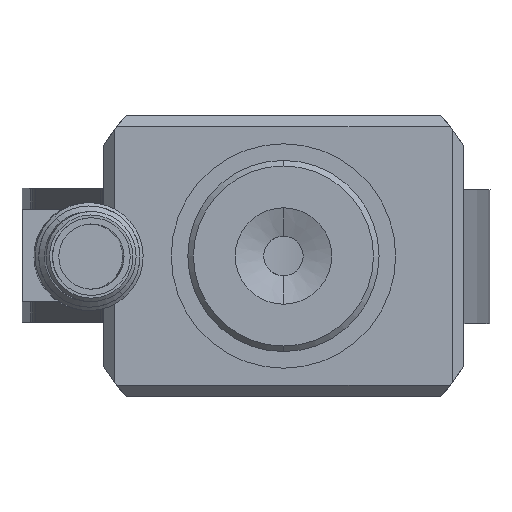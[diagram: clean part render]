
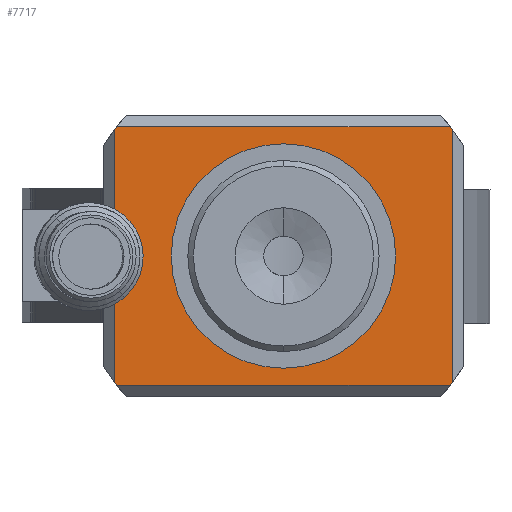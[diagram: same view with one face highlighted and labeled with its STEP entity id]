
A CAD part, front view. The second image highlights one B-rep face of the part: STEP entity #7717.
In plain terms, the highlighted planar face has unit normal (0, -1, 0).
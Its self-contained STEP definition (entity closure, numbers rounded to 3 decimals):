
#55 = VERTEX_POINT ( 'NONE', #22876 ) ;
#96 = VERTEX_POINT ( 'NONE', #6525 ) ;
#456 = DIRECTION ( 'NONE',  ( 0., -1., 0. ) ) ;
#574 = DIRECTION ( 'NONE',  ( -1., 0., 0. ) ) ;
#735 = ORIENTED_EDGE ( 'NONE', *, *, #24138, .F. ) ;
#876 = CARTESIAN_POINT ( 'NONE',  ( 15., 43., -11.25 ) ) ;
#944 = AXIS2_PLACEMENT_3D ( 'NONE', #12843, #456, #14910 ) ;
#1050 = VERTEX_POINT ( 'NONE', #876 ) ;
#1397 = DIRECTION ( 'NONE',  ( 0., 1., 0. ) ) ;
#1566 = CIRCLE ( 'NONE', #15515, 18.75 ) ;
#1774 = CARTESIAN_POINT ( 'NONE',  ( 0., 43., 0. ) ) ;
#2044 = LINE ( 'NONE', #7238, #6913 ) ;
#3892 = DIRECTION ( 'NONE',  ( 0., 0., 1. ) ) ;
#4102 = LINE ( 'NONE', #25244, #24663 ) ;
#5225 = CARTESIAN_POINT ( 'NONE',  ( -9.975, 43., 0. ) ) ;
#5650 = DIRECTION ( 'NONE',  ( 0., -1., 0. ) ) ;
#5869 = EDGE_CURVE ( 'NONE', #25045, #16637, #14347, .T. ) ;
#6264 = EDGE_CURVE ( 'NONE', #18170, #1050, #2044, .T. ) ;
#6525 = CARTESIAN_POINT ( 'NONE',  ( 14.809, 43., -11.5 ) ) ;
#6827 = CARTESIAN_POINT ( 'NONE',  ( 0., 43., 0. ) ) ;
#6886 = LINE ( 'NONE', #15073, #16535 ) ;
#6913 = VECTOR ( 'NONE', #13463, 1000. ) ;
#7238 = CARTESIAN_POINT ( 'NONE',  ( 15., 43., 0. ) ) ;
#7328 = DIRECTION ( 'NONE',  ( 0., 1., 0. ) ) ;
#7340 = EDGE_CURVE ( 'NONE', #1050, #96, #24583, .T. ) ;
#7717 = ADVANCED_FACE ( 'NONE', ( #15564, #26474 ), #17591, .F. ) ;
#7975 = CARTESIAN_POINT ( 'NONE',  ( 0., 43., 0. ) ) ;
#8334 = EDGE_CURVE ( 'NONE', #10139, #13234, #6886, .T. ) ;
#8889 = DIRECTION ( 'NONE',  ( 0., 0., 1. ) ) ;
#8993 = DIRECTION ( 'NONE',  ( 0., 0., 1. ) ) ;
#9868 = ORIENTED_EDGE ( 'NONE', *, *, #21434, .F. ) ;
#10013 = DIRECTION ( 'NONE',  ( 0., 0., 1. ) ) ;
#10023 = VERTEX_POINT ( 'NONE', #24323 ) ;
#10139 = VERTEX_POINT ( 'NONE', #12310 ) ;
#10327 = CARTESIAN_POINT ( 'NONE',  ( 15., 43., 11.25 ) ) ;
#10935 = CARTESIAN_POINT ( 'NONE',  ( -15., 43., 0. ) ) ;
#11016 = ORIENTED_EDGE ( 'NONE', *, *, #8334, .F. ) ;
#11137 = EDGE_CURVE ( 'NONE', #21741, #10139, #17420, .T. ) ;
#11296 = AXIS2_PLACEMENT_3D ( 'NONE', #7975, #22340, #10013 ) ;
#11350 = EDGE_CURVE ( 'NONE', #16637, #25045, #16422, .T. ) ;
#12269 = ORIENTED_EDGE ( 'NONE', *, *, #6264, .F. ) ;
#12310 = CARTESIAN_POINT ( 'NONE',  ( -14.809, 43., 11.5 ) ) ;
#12843 = CARTESIAN_POINT ( 'NONE',  ( 0., 43., 0. ) ) ;
#13234 = VERTEX_POINT ( 'NONE', #18546 ) ;
#13404 = EDGE_CURVE ( 'NONE', #96, #10023, #4102, .T. ) ;
#13463 = DIRECTION ( 'NONE',  ( 0., 0., -1. ) ) ;
#13557 = CARTESIAN_POINT ( 'NONE',  ( 0., 43., 9.975 ) ) ;
#13676 = ORIENTED_EDGE ( 'NONE', *, *, #23830, .F. ) ;
#13773 = CARTESIAN_POINT ( 'NONE',  ( 0., 43., 0. ) ) ;
#14347 = CIRCLE ( 'NONE', #944, 9.975 ) ;
#14910 = DIRECTION ( 'NONE',  ( 0., 0., -1. ) ) ;
#15073 = CARTESIAN_POINT ( 'NONE',  ( -9.975, 43., 11.5 ) ) ;
#15515 = AXIS2_PLACEMENT_3D ( 'NONE', #1774, #16188, #3892 ) ;
#15564 = FACE_OUTER_BOUND ( 'NONE', #22636, .T. ) ;
#15643 = ORIENTED_EDGE ( 'NONE', *, *, #11137, .F. ) ;
#15678 = ORIENTED_EDGE ( 'NONE', *, *, #13404, .F. ) ;
#15830 = DIRECTION ( 'NONE',  ( 0., 0., 1. ) ) ;
#16188 = DIRECTION ( 'NONE',  ( 0., 1., 0. ) ) ;
#16422 = CIRCLE ( 'NONE', #23473, 9.975 ) ;
#16535 = VECTOR ( 'NONE', #17139, 1000. ) ;
#16637 = VERTEX_POINT ( 'NONE', #24252 ) ;
#17139 = DIRECTION ( 'NONE',  ( 1., 0., 0. ) ) ;
#17420 = CIRCLE ( 'NONE', #19866, 18.75 ) ;
#17591 = PLANE ( 'NONE',  #21327 ) ;
#17711 = LINE ( 'NONE', #10935, #22487 ) ;
#18010 = CARTESIAN_POINT ( 'NONE',  ( 0., 43., 0. ) ) ;
#18170 = VERTEX_POINT ( 'NONE', #10327 ) ;
#18319 = ORIENTED_EDGE ( 'NONE', *, *, #11350, .F. ) ;
#18546 = CARTESIAN_POINT ( 'NONE',  ( 14.809, 43., 11.5 ) ) ;
#18595 = ORIENTED_EDGE ( 'NONE', *, *, #7340, .F. ) ;
#19539 = ORIENTED_EDGE ( 'NONE', *, *, #5869, .F. ) ;
#19866 = AXIS2_PLACEMENT_3D ( 'NONE', #6827, #21210, #8889 ) ;
#20051 = DIRECTION ( 'NONE',  ( 0., 0., -1. ) ) ;
#21116 = EDGE_LOOP ( 'NONE', ( #18319, #19539 ) ) ;
#21210 = DIRECTION ( 'NONE',  ( 0., 1., 0. ) ) ;
#21327 = AXIS2_PLACEMENT_3D ( 'NONE', #5225, #7328, #21686 ) ;
#21434 = EDGE_CURVE ( 'NONE', #10023, #55, #26178, .T. ) ;
#21686 = DIRECTION ( 'NONE',  ( 0., 0., 1. ) ) ;
#21741 = VERTEX_POINT ( 'NONE', #22952 ) ;
#22340 = DIRECTION ( 'NONE',  ( 0., 1., 0. ) ) ;
#22487 = VECTOR ( 'NONE', #8993, 1000. ) ;
#22636 = EDGE_LOOP ( 'NONE', ( #11016, #15643, #13676, #9868, #15678, #18595, #12269, #735 ) ) ;
#22876 = CARTESIAN_POINT ( 'NONE',  ( -15., 43., -11.25 ) ) ;
#22952 = CARTESIAN_POINT ( 'NONE',  ( -15., 43., 11.25 ) ) ;
#23380 = AXIS2_PLACEMENT_3D ( 'NONE', #13773, #1397, #15830 ) ;
#23473 = AXIS2_PLACEMENT_3D ( 'NONE', #18010, #5650, #20051 ) ;
#23830 = EDGE_CURVE ( 'NONE', #55, #21741, #17711, .T. ) ;
#24138 = EDGE_CURVE ( 'NONE', #13234, #18170, #1566, .T. ) ;
#24252 = CARTESIAN_POINT ( 'NONE',  ( 0., 43., -9.975 ) ) ;
#24323 = CARTESIAN_POINT ( 'NONE',  ( -14.809, 43., -11.5 ) ) ;
#24583 = CIRCLE ( 'NONE', #11296, 18.75 ) ;
#24663 = VECTOR ( 'NONE', #574, 1000. ) ;
#25045 = VERTEX_POINT ( 'NONE', #13557 ) ;
#25244 = CARTESIAN_POINT ( 'NONE',  ( -9.975, 43., -11.5 ) ) ;
#26178 = CIRCLE ( 'NONE', #23380, 18.75 ) ;
#26474 = FACE_BOUND ( 'NONE', #21116, .T. ) ;
